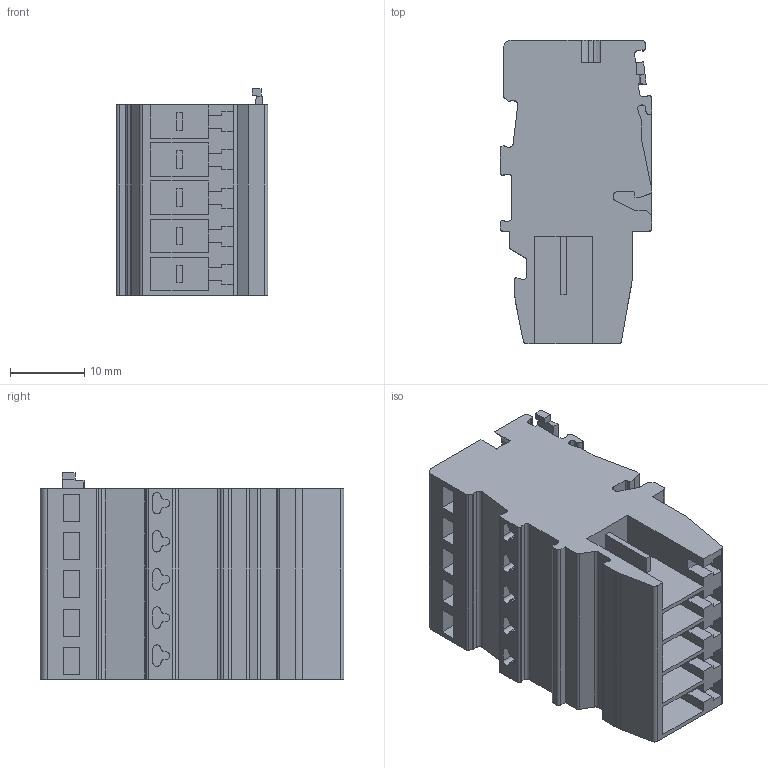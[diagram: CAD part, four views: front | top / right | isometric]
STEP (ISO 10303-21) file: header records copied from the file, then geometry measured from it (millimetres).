
FILE_DESCRIPTION(('SolidDesigner STEP Export'),'2;1');
FILE_NAME('3000659_PPC_2.5_5-select.stp','2013-02-05T14:34:16',(''),(''),'Creo Elements/Direct Modeling STEP processor for AP214 (Solid Model)','Creo Elements/Direct Modeling 18.1 06-May-2012 (C) Parametric Technology GmbH','');
FILE_SCHEMA(('AUTOMOTIVE_DESIGN { 1 0 10303 214 1 1 1 1 }'));
Length unit declared in the file: millimetre
Products named in the file (2): 3000659_PPC_2.5_5-select
Assembly tree (1 placements, depth 2):
  3000659_PPC_2.5_5-select
    3000659_PPC_2.5_5-select
Bounding box: 20.5 x 41 x 27.93 mm (x, y, z)
Volume: 14905.1 mm3; surface area: 7894.9 mm2
Topology: 1 solids, 6 shells, 513 faces, 1441 edges, 966 vertices
Faces by surface type: plane 384, cylinder 114, cone 15
Entity records: 21767 total; most frequent: CARTESIAN_POINT 4497, ORIENTED_EDGE 2862, DIRECTION 2631, EDGE_CURVE 1431, VECTOR 1161, LINE 1161, VERTEX_POINT 966, AXIS2_PLACEMENT_3D 735
